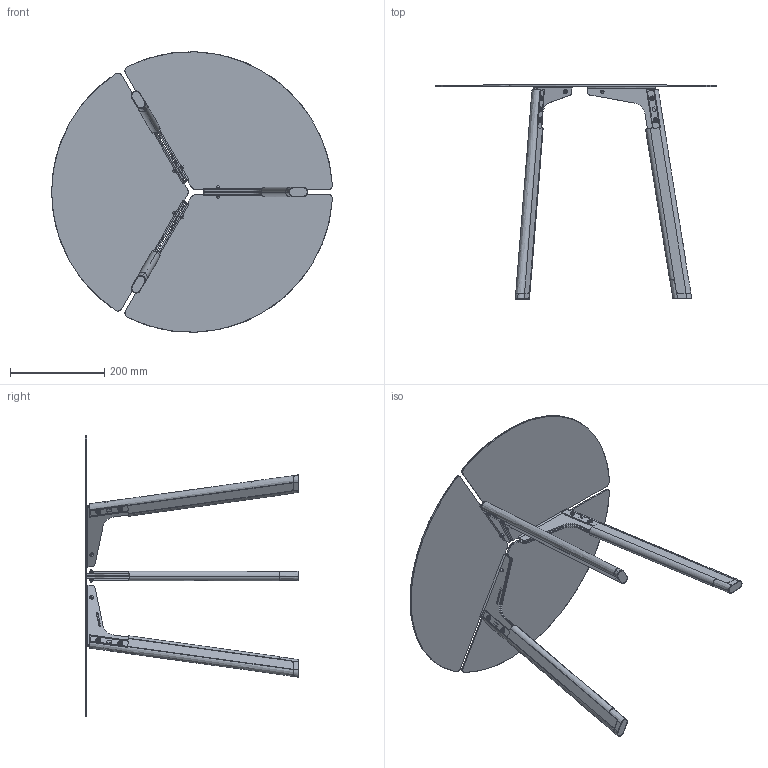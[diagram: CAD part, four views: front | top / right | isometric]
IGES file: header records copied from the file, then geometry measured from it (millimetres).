
Start section: SolidWorks IGES file using analytic representation for surfaces
Global section: file name: \\utenti\Dati Utenti\Tecnico\DC\2D - 3D per sito\3D\DeCastelli-3D-Placas 60.igs; native system: SolidWorks 2022; preprocessor: SolidWorks 2022; author: Simonep; date: 240729.120640; units: millimetre
Bounding box: 594.31 x 452.48 x 593.73 mm (x, y, z)
Surface area: 804460 mm2 (no closed solid volume)
Topology: 0 solids, 0 shells, 298 faces, 5879 edges, 5867 vertices
Faces by surface type: bspline 180, revolution 118
